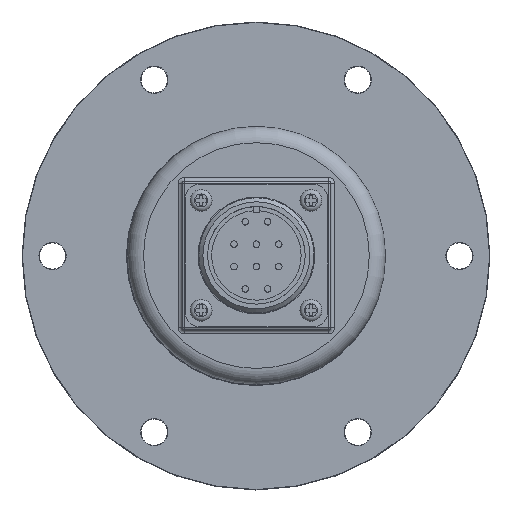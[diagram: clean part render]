
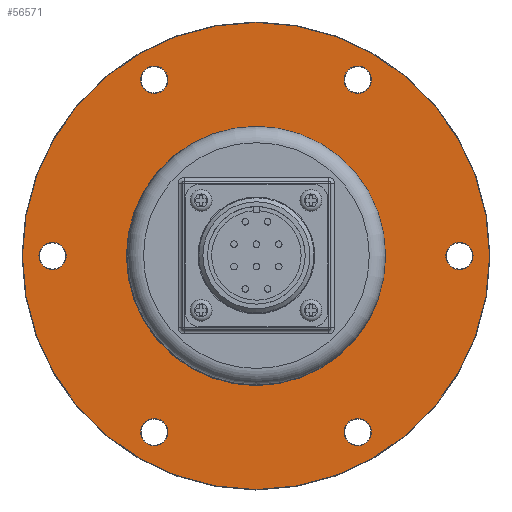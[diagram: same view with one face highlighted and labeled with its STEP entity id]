
A CAD part, top view. The second image highlights one B-rep face of the part: STEP entity #56571.
In plain terms, the highlighted planar face has unit normal (0, 0, 1).
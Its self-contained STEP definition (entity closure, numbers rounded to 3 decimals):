
#56524 = VERTEX_POINT('',#56525);
#56525 = CARTESIAN_POINT('',(31.85,0.,11.));
#56534 = EDGE_CURVE('',#56524,#56524,#56535,.T.);
#56535 = CIRCLE('',#56536,31.85);
#56536 = AXIS2_PLACEMENT_3D('',#56537,#56538,#56539);
#56537 = CARTESIAN_POINT('',(0.,0.,11.));
#56538 = DIRECTION('',(0.,0.,1.));
#56539 = DIRECTION('',(1.,0.,-0.));
#56571 = ADVANCED_FACE('',(#56572,#56575,#56586,#56597,#56608,#56619,
    #56630,#56641),#56652,.T.);
#56572 = FACE_BOUND('',#56573,.T.);
#56573 = EDGE_LOOP('',(#56574));
#56574 = ORIENTED_EDGE('',*,*,#56534,.F.);
#56575 = FACE_BOUND('',#56576,.T.);
#56576 = EDGE_LOOP('',(#56577));
#56577 = ORIENTED_EDGE('',*,*,#56578,.F.);
#56578 = EDGE_CURVE('',#56579,#56579,#56581,.T.);
#56579 = VERTEX_POINT('',#56580);
#56580 = CARTESIAN_POINT('',(23.325,-40.4,11.));
#56581 = CIRCLE('',#56582,3.35);
#56582 = AXIS2_PLACEMENT_3D('',#56583,#56584,#56585);
#56583 = CARTESIAN_POINT('',(25.,-43.301,11.));
#56584 = DIRECTION('',(0.,0.,1.));
#56585 = DIRECTION('',(-0.5,0.866,0.));
#56586 = FACE_BOUND('',#56587,.T.);
#56587 = EDGE_LOOP('',(#56588));
#56588 = ORIENTED_EDGE('',*,*,#56589,.F.);
#56589 = EDGE_CURVE('',#56590,#56590,#56592,.T.);
#56590 = VERTEX_POINT('',#56591);
#56591 = CARTESIAN_POINT('',(46.65,0.,11.));
#56592 = CIRCLE('',#56593,3.35);
#56593 = AXIS2_PLACEMENT_3D('',#56594,#56595,#56596);
#56594 = CARTESIAN_POINT('',(50.,0.,11.));
#56595 = DIRECTION('',(0.,0.,1.));
#56596 = DIRECTION('',(-1.,0.,0.));
#56597 = FACE_BOUND('',#56598,.T.);
#56598 = EDGE_LOOP('',(#56599));
#56599 = ORIENTED_EDGE('',*,*,#56600,.F.);
#56600 = EDGE_CURVE('',#56601,#56601,#56603,.T.);
#56601 = VERTEX_POINT('',#56602);
#56602 = CARTESIAN_POINT('',(23.325,40.4,11.));
#56603 = CIRCLE('',#56604,3.35);
#56604 = AXIS2_PLACEMENT_3D('',#56605,#56606,#56607);
#56605 = CARTESIAN_POINT('',(25.,43.301,11.));
#56606 = DIRECTION('',(0.,0.,1.));
#56607 = DIRECTION('',(-0.5,-0.866,0.));
#56608 = FACE_BOUND('',#56609,.T.);
#56609 = EDGE_LOOP('',(#56610));
#56610 = ORIENTED_EDGE('',*,*,#56611,.F.);
#56611 = EDGE_CURVE('',#56612,#56612,#56614,.T.);
#56612 = VERTEX_POINT('',#56613);
#56613 = CARTESIAN_POINT('',(-23.325,40.4,11.));
#56614 = CIRCLE('',#56615,3.35);
#56615 = AXIS2_PLACEMENT_3D('',#56616,#56617,#56618);
#56616 = CARTESIAN_POINT('',(-25.,43.301,11.));
#56617 = DIRECTION('',(-0.,0.,1.));
#56618 = DIRECTION('',(0.5,-0.866,0.));
#56619 = FACE_BOUND('',#56620,.T.);
#56620 = EDGE_LOOP('',(#56621));
#56621 = ORIENTED_EDGE('',*,*,#56622,.F.);
#56622 = EDGE_CURVE('',#56623,#56623,#56625,.T.);
#56623 = VERTEX_POINT('',#56624);
#56624 = CARTESIAN_POINT('',(-46.65,0.,11.));
#56625 = CIRCLE('',#56626,3.35);
#56626 = AXIS2_PLACEMENT_3D('',#56627,#56628,#56629);
#56627 = CARTESIAN_POINT('',(-50.,0.,11.));
#56628 = DIRECTION('',(0.,0.,1.));
#56629 = DIRECTION('',(1.,0.,0.));
#56630 = FACE_BOUND('',#56631,.T.);
#56631 = EDGE_LOOP('',(#56632));
#56632 = ORIENTED_EDGE('',*,*,#56633,.F.);
#56633 = EDGE_CURVE('',#56634,#56634,#56636,.T.);
#56634 = VERTEX_POINT('',#56635);
#56635 = CARTESIAN_POINT('',(-23.325,-40.4,11.));
#56636 = CIRCLE('',#56637,3.35);
#56637 = AXIS2_PLACEMENT_3D('',#56638,#56639,#56640);
#56638 = CARTESIAN_POINT('',(-25.,-43.301,11.));
#56639 = DIRECTION('',(0.,-0.,1.));
#56640 = DIRECTION('',(0.5,0.866,0.));
#56641 = FACE_BOUND('',#56642,.T.);
#56642 = EDGE_LOOP('',(#56643));
#56643 = ORIENTED_EDGE('',*,*,#56644,.T.);
#56644 = EDGE_CURVE('',#56645,#56645,#56647,.T.);
#56645 = VERTEX_POINT('',#56646);
#56646 = CARTESIAN_POINT('',(57.4,0.,11.));
#56647 = CIRCLE('',#56648,57.4);
#56648 = AXIS2_PLACEMENT_3D('',#56649,#56650,#56651);
#56649 = CARTESIAN_POINT('',(0.,0.,11.));
#56650 = DIRECTION('',(0.,0.,1.));
#56651 = DIRECTION('',(1.,0.,0.));
#56652 = PLANE('',#56653);
#56653 = AXIS2_PLACEMENT_3D('',#56654,#56655,#56656);
#56654 = CARTESIAN_POINT('',(0.,0.,11.));
#56655 = DIRECTION('',(0.,0.,1.));
#56656 = DIRECTION('',(1.,0.,0.));
